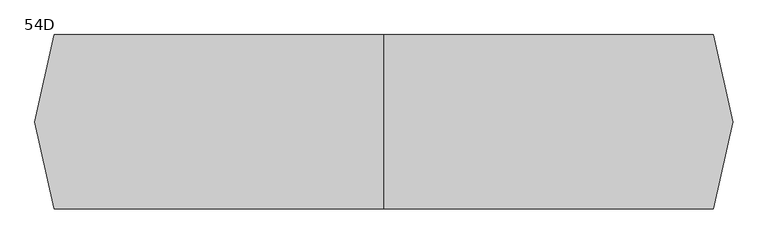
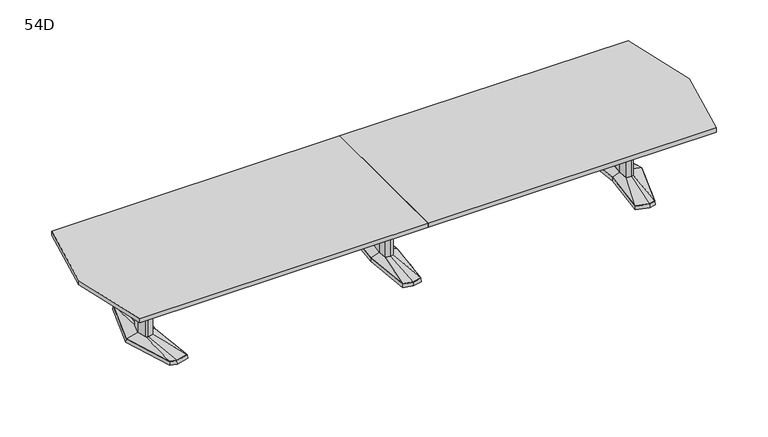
"""IFC4 building model written with IfcOpenShell, lengths in millimetres: furniture geometry, Coalesse_AM_Table_Conference_ETable2_Faceted_18ft_AluminiumBase : 54D."""

from ifc_helpers import new_model, si_unit, frame, origin, place, context, project, spatial, polyline, outline, extrude, faceted_brep, source, transform, mapped, element, save
from ifc_brep_helpers import plane_surface, spline_surface, advanced_brep


def furniture_54d_85b6f77c(model_context):
    return source(origin(), model_context, "Body", "SolidModel", [
        faceted_brep([(-81.2333791, -433.8053819, 38.1), (0.0, -455.556576, 38.1), (81.2333791, -433.8053819, 38.1), (119.0564774, 0.0, 38.1), (81.2333791, 433.8053819, 38.1), (0.0, 455.556576, 38.1), (-81.2333791, 433.8053819, 38.1), (-119.0564774, 0.0, 38.1), (-82.7182795, -435.0512063, 3.175), (-120.65, 0.0, 3.175), (-82.7182795, 435.0512063, 3.175), (0.0, 457.2, 3.175), (82.7182795, 435.0512063, 3.175), (120.65, 0.0, 3.175), (82.7182795, -435.0512063, 3.175), (0.0, -457.2, 3.175), (0.0, 429.2617927, 3.175), (-77.9676806, 408.3850278, 3.175), (-74.7019821, 382.9646737, 3.175), (0.0, 402.9670094, 3.175), (74.7019821, 382.9646737, 3.175), (77.9676806, 408.3850278, 3.175), (0.0, -429.2617927, 3.175), (77.9676806, -408.3850278, 3.175), (74.7019821, -382.9646737, 3.175), (0.0, -402.9670094, 3.175), (-74.7019821, -382.9646737, 3.175), (-77.9676806, -408.3850278, 3.175), (-71.8574262, 114.6326257, 3.175), (-82.5426076, 0.0, 3.175), (-71.8574262, -114.6326257, 3.175), (0.0, -133.8761372, 3.175), (71.8574262, -114.6326257, 3.175), (82.5426076, 0.0, 3.175), (71.8574262, 114.6326257, 3.175), (0.0, 133.8761372, 3.175), (0.0, 429.2617927, 0.0), (77.9676806, 408.3850278, 0.0), (74.7019821, 382.9646737, 0.0), (0.0, 402.9670094, 0.0), (-74.7019821, 382.9646737, 0.0), (-77.9676806, 408.3850278, 0.0), (0.0, -429.2617927, 0.0), (-77.9676806, -408.3850278, 0.0), (-74.7019821, -382.9646737, 0.0), (0.0, -402.9670094, 0.0), (74.7019821, -382.9646737, 0.0), (77.9676806, -408.3850278, 0.0), (-71.8574262, 114.6326257, 0.0), (0.0, 133.8761372, 0.0), (71.8574262, 114.6326257, 0.0), (82.5426076, 0.0, 0.0), (71.8574262, -114.6326257, 0.0), (0.0, -133.8761372, 0.0), (-71.8574262, -114.6326257, 0.0), (-82.5426076, 0.0, 0.0)], [[[0, 1, 2, 3, 4, 5, 6, 7]], [[8, 9, 10, 11, 12, 13, 14, 15], [16, 17, 18, 19, 20, 21], [22, 23, 24, 25, 26, 27], [28, 29, 30, 31, 32, 33, 34, 35]], [[1, 0, 8, 15]], [[2, 1, 15, 14]], [[3, 2, 14, 13]], [[4, 3, 13, 12]], [[5, 4, 12, 11]], [[6, 5, 11, 10]], [[7, 6, 10, 9]], [[0, 7, 9, 8]], [[36, 37, 38, 39, 40, 41]], [[42, 43, 44, 45, 46, 47]], [[48, 49, 50, 51, 52, 53, 54, 55]], [[36, 41, 17, 16]], [[41, 40, 18, 17]], [[40, 39, 19, 18]], [[39, 38, 20, 19]], [[38, 37, 21, 20]], [[37, 36, 16, 21]], [[42, 47, 23, 22]], [[47, 46, 24, 23]], [[46, 45, 25, 24]], [[45, 44, 26, 25]], [[44, 43, 27, 26]], [[43, 42, 22, 27]], [[48, 55, 29, 28]], [[55, 54, 30, 29]], [[54, 53, 31, 30]], [[53, 52, 32, 31]], [[52, 51, 33, 32]], [[51, 50, 34, 33]], [[50, 49, 35, 34]], [[49, 48, 28, 35]]]),
        faceted_brep([(-36.3832834, 84.6900825, 698.5), (-44.2774487, 0.0, 698.5), (-36.3832834, -84.6900825, 698.5), (0.0, -94.4335728, 698.5), (36.3832834, -84.6900825, 698.5), (44.2774487, 0.0, 698.5), (36.3832834, 84.6900825, 698.5), (0.0, 94.4335728, 698.5), (-36.3832834, 84.6900825, 63.5), (0.0, 94.4335728, 63.5), (36.3832834, 84.6900825, 63.5), (44.2774487, 0.0, 63.5), (36.3832834, -84.6900825, 63.5), (0.0, -94.4335728, 63.5), (-36.3832834, -84.6900825, 63.5), (-44.2774487, 0.0, 63.5)], [[[0, 1, 2, 3, 4, 5, 6, 7]], [[8, 9, 10, 11, 12, 13, 14, 15]], [[1, 0, 8, 15]], [[2, 1, 15, 14]], [[3, 2, 14, 13]], [[4, 3, 13, 12]], [[5, 4, 12, 11]], [[6, 5, 11, 10]], [[7, 6, 10, 9]], [[0, 7, 9, 8]]]),
        advanced_brep(
        [(-36.3832834, 84.6900825, 63.5), (-44.2774487, 0.0, 63.5), (-36.3832834, -84.6900825, 63.5), (0.0, -94.4335728, 63.5), (36.3832834, -84.6900825, 63.5), (44.2774487, 0.0, 63.5), (36.3832834, 84.6900825, 63.5), (0.0, 94.4335728, 63.5), (-81.2333791, 433.8053819, 38.1), (0.0, 455.556576, 38.1), (81.2333791, 433.8053819, 38.1), (119.0564774, 0.0, 38.1), (81.2333791, -433.8053819, 38.1), (0.0, -455.556576, 38.1), (-81.2333791, -433.8053819, 38.1), (-119.0564774, 0.0, 38.1)],
        [
            (0, 1),
            (1, 2),
            (2, 3),
            (3, 4),
            (4, 5),
            (5, 6),
            (6, 7),
            (7, 0),
            (8, 9),
            (9, 10),
            (10, 11),
            (11, 12),
            (12, 13),
            (13, 14),
            (14, 15),
            (15, 8),
            (15, 1),
            (0, 8),
            (14, 2),
            (13, 3),
            (12, 4),
            (11, 5),
            (10, 6),
            (9, 7),
        ],
        [
            plane_surface(frame((0.0, 0.0, 63.5), z_axis=(0.0, 0.0, 1.0000000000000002), x_axis=(-0.9659615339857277, -0.25868574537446, 0.0))),
            plane_surface(frame((0.0, 0.0, 38.1), z_axis=(0.0, 0.0, -1.0000000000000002), x_axis=(-0.9659615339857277, -0.25868574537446, 0.0))),
            spline_surface(1, 1, [[(-81.2333791, 433.8053819, 38.1), (-36.3832834, 84.6900825, 63.5)], [(-119.0564774, 0.0, 38.1), (-44.2774487, 0.0, 63.5)]], [2, 2], [2, 2], [0.0, 1.0], [0.0, 1.0]),
            spline_surface(1, 1, [[(-119.0564774, 0.0, 38.1), (-44.2774487, 0.0, 63.5)], [(-81.2333791, -433.8053819, 38.1), (-36.3832834, -84.6900825, 63.5)]], [2, 2], [2, 2], [0.0, 1.0], [0.0, 1.0]),
            spline_surface(1, 1, [[(-81.2333791, -433.8053819, 38.1), (-36.3832834, -84.6900825, 63.5)], [(0.0, -455.556576, 38.1), (0.0, -94.4335728, 63.5)]], [2, 2], [2, 2], [0.0, 1.0], [0.0, 1.0]),
            spline_surface(1, 1, [[(0.0, -455.556576, 38.1), (0.0, -94.4335728, 63.5)], [(81.2333791, -433.8053819, 38.1), (36.3832834, -84.6900825, 63.5)]], [2, 2], [2, 2], [0.0, 1.0], [0.0, 1.0]),
            spline_surface(1, 1, [[(81.2333791, -433.8053819, 38.1), (36.3832834, -84.6900825, 63.5)], [(119.0564774, 0.0, 38.1), (44.2774487, 0.0, 63.5)]], [2, 2], [2, 2], [0.0, 1.0], [0.0, 1.0]),
            spline_surface(1, 1, [[(119.0564774, 0.0, 38.1), (44.2774487, 0.0, 63.5)], [(81.2333791, 433.8053819, 38.1), (36.3832834, 84.6900825, 63.5)]], [2, 2], [2, 2], [0.0, 1.0], [0.0, 1.0]),
            spline_surface(1, 1, [[(81.2333791, 433.8053819, 38.1), (36.3832834, 84.6900825, 63.5)], [(0.0, 455.556576, 38.1), (0.0, 94.4335728, 63.5)]], [2, 2], [2, 2], [0.0, 1.0], [0.0, 1.0]),
            spline_surface(1, 1, [[(0.0, 455.556576, 38.1), (0.0, 94.4335728, 63.5)], [(-81.2333791, 433.8053819, 38.1), (-36.3832834, 84.6900825, 63.5)]], [2, 2], [2, 2], [0.0, 1.0], [0.0, 1.0]),
        ],
        [
            (0, [[1, 2, 3, 4, 5, 6, 7, 8]]),
            (1, [[9, 10, 11, 12, 13, 14, 15, 16]]),
            (2, [[-16, 17, -1, 18]]),
            (3, [[-15, 19, -2, -17]]),
            (4, [[-14, 20, -3, -19]]),
            (5, [[-13, 21, -4, -20]]),
            (6, [[-12, 22, -5, -21]]),
            (7, [[-11, 23, -6, -22]]),
            (8, [[-10, 24, -7, -23]]),
            (9, [[-9, -18, -8, -24]]),
        ],
    ),
        faceted_brep([(2125.0306835, 455.5848221, 38.1), (2015.4531277, 426.2263816, 38.1), (2056.6163717, 0.0, 38.1), (2015.4531277, -426.2263816, 38.1), (2125.0306835, -455.5848221, 38.1), (2181.1570396, -440.5478297, 38.1), (2318.4684269, 0.0, 38.1), (2181.1570396, 440.5478297, 38.1), (2125.0306754, 457.2283104, 3.175), (2182.4124472, 441.8549756, 3.175), (2320.13125, 0.0, 3.175), (2182.4124472, -441.8549756, 3.175), (2125.0306754, -457.2283104, 3.175), (2013.74375, -427.4118891, 3.175), (2055.0214856, 0.0, 3.175), (2013.74375, 427.4118891, 3.175), (2128.620115, 428.3273875, 3.175), (2023.5718228, 402.1057253, 3.175), (2031.690518, 377.985069, 3.175), (2132.2095466, 401.0699529, 3.175), (2182.7691725, 387.524361, 3.175), (2181.9631061, 414.0360954, 3.175), (2128.620115, -428.3273875, 3.175), (2181.9631061, -414.0360954, 3.175), (2182.7691725, -387.524361, 3.175), (2132.2095466, -401.0699529, 3.175), (2031.690518, -377.985069, 3.175), (2023.5718228, -402.1057253, 3.175), (2255.2153621, 0.0, 3.175), (2222.9459611, 120.4193755, 3.175), (2174.2987222, 133.471665, 3.175), (2094.4180526, 119.4176561, 3.175), (2083.2868466, 0.0, 3.175), (2094.4180526, -119.4176561, 3.175), (2174.2987222, -133.471665, 3.175), (2222.9459611, -120.4193755, 3.175), (2128.620115, 428.3273875, 0.0), (2181.9631061, 414.0360954, 0.0), (2182.7691725, 387.524361, 0.0), (2132.2095466, 401.0699529, 0.0), (2031.690518, 377.985069, 0.0), (2023.5718228, 402.1057253, 0.0), (2128.620115, -428.3273875, 0.0), (2023.5718228, -402.1057253, 0.0), (2031.690518, -377.985069, 0.0), (2132.2095466, -401.0699529, 0.0), (2182.7691725, -387.524361, 0.0), (2181.9631061, -414.0360954, 0.0), (2255.2153621, 0.0, 0.0), (2222.9459611, -120.4193755, 0.0), (2174.2987222, -133.471665, 0.0), (2094.4180526, -119.4176561, 0.0), (2083.2868466, 0.0, 0.0), (2094.4180526, 119.4176561, 0.0), (2174.2987222, 133.471665, 0.0), (2222.9459611, 120.4193755, 0.0)], [[[0, 1, 2, 3, 4, 5, 6, 7]], [[8, 9, 10, 11, 12, 13, 14, 15], [16, 17, 18, 19, 20, 21], [22, 23, 24, 25, 26, 27], [28, 29, 30, 31, 32, 33, 34, 35]], [[7, 9, 8, 0]], [[6, 10, 9, 7]], [[5, 11, 10, 6]], [[4, 12, 11, 5]], [[3, 13, 12, 4]], [[2, 14, 13, 3]], [[1, 15, 14, 2]], [[0, 8, 15, 1]], [[36, 37, 38, 39, 40, 41]], [[42, 43, 44, 45, 46, 47]], [[48, 49, 50, 51, 52, 53, 54, 55]], [[36, 16, 21, 37]], [[37, 21, 20, 38]], [[38, 20, 19, 39]], [[39, 19, 18, 40]], [[40, 18, 17, 41]], [[41, 17, 16, 36]], [[42, 22, 27, 43]], [[43, 27, 26, 44]], [[44, 26, 25, 45]], [[45, 25, 24, 46]], [[46, 24, 23, 47]], [[47, 23, 22, 42]], [[48, 28, 35, 49]], [[49, 35, 34, 50]], [[50, 34, 33, 51]], [[51, 33, 32, 52]], [[52, 32, 31, 53]], [[53, 31, 30, 54]], [[54, 30, 29, 55]], [[55, 29, 28, 48]]]),
        faceted_brep([(2215.7710836, 0.0, 698.5), (2191.8358546, 89.3188359, 698.5), (2174.9824984, 93.8406728, 698.5), (2172.5826511, 94.4845635, 698.5), (2129.655146, 86.9320037, 698.5), (2121.5520056, 0.0, 698.5), (2129.655146, -86.9320037, 698.5), (2172.5826511, -94.4845635, 698.5), (2174.9824984, -93.8406728, 698.5), (2191.8358546, -89.3188359, 698.5), (2215.7710836, 0.0, 63.5), (2191.8358546, -89.3188359, 63.5), (2174.9824984, -93.8406728, 63.5), (2172.5826511, -94.4845635, 63.5), (2129.655146, -86.9320037, 63.5), (2121.5520056, 0.0, 63.5), (2129.655146, 86.9320037, 63.5), (2172.5826511, 94.4845635, 63.5), (2174.9824984, 93.8406728, 63.5), (2191.8358546, 89.3188359, 63.5)], [[[0, 1, 2, 3, 4, 5, 6, 7, 8, 9]], [[10, 11, 12, 13, 14, 15, 16, 17, 18, 19]], [[9, 11, 10, 0]], [[8, 12, 11, 9]], [[7, 13, 12, 8]], [[6, 14, 13, 7]], [[5, 15, 14, 6]], [[4, 16, 15, 5]], [[3, 17, 16, 4]], [[2, 18, 17, 3]], [[1, 19, 18, 2]], [[0, 10, 19, 1]]]),
        advanced_brep(
        [(2172.5826511, 94.4845635, 63.5), (2129.655146, 86.9320037, 63.5), (2121.5520056, 0.0, 63.5), (2129.655146, -86.9320037, 63.5), (2172.5826511, -94.4845635, 63.5), (2191.8358546, -89.3188359, 63.5), (2215.7710836, 0.0, 63.5), (2191.8358546, 89.3188359, 63.5), (2125.0306835, 455.5848221, 38.1), (2181.1570396, 440.5478297, 38.1), (2318.4684269, 0.0, 38.1), (2181.1570396, -440.5478297, 38.1), (2125.0306835, -455.5848221, 38.1), (2015.4531277, -426.2263816, 38.1), (2056.6163717, 0.0, 38.1), (2015.4531277, 426.2263816, 38.1)],
        [
            (0, 1),
            (1, 2),
            (2, 3),
            (3, 4),
            (4, 5),
            (5, 6),
            (6, 7),
            (7, 0),
            (8, 9),
            (9, 10),
            (10, 11),
            (11, 12),
            (12, 13),
            (13, 14),
            (14, 15),
            (15, 8),
            (8, 0),
            (7, 9),
            (6, 10),
            (5, 11),
            (4, 12),
            (3, 13),
            (2, 14),
            (1, 15),
        ],
        [
            plane_surface(frame((2165.6837991, 0.0, 63.5), z_axis=(0.0, 0.0, 1.0), x_axis=(-0.25884244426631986, -0.9659195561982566, 0.0))),
            plane_surface(frame((2127.2958125, 0.0, 38.1), z_axis=(0.0, 0.0, -1.0), x_axis=(-0.25884244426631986, -0.9659195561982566, 0.0))),
            spline_surface(1, 1, [[(2125.0306835, 455.5848221, 38.1), (2181.1570396, 440.5478297, 38.1)], [(2172.5826511, 94.4845635, 63.5), (2191.8358546, 89.3188359, 63.5)]], [2, 2], [2, 2], [0.0, 1.0], [0.0, 1.0]),
            spline_surface(1, 1, [[(2181.1570396, 440.5478297, 38.1), (2318.4684269, 0.0, 38.1)], [(2191.8358546, 89.3188359, 63.5), (2215.7710836, 0.0, 63.5)]], [2, 2], [2, 2], [0.0, 1.0], [0.0, 1.0]),
            spline_surface(1, 1, [[(2318.4684269, 0.0, 38.1), (2181.1570396, -440.5478297, 38.1)], [(2215.7710836, 0.0, 63.5), (2191.8358546, -89.3188359, 63.5)]], [2, 2], [2, 2], [0.0, 1.0], [0.0, 1.0]),
            spline_surface(1, 1, [[(2181.1570396, -440.5478297, 38.1), (2125.0306835, -455.5848221, 38.1)], [(2191.8358546, -89.3188359, 63.5), (2172.5826511, -94.4845635, 63.5)]], [2, 2], [2, 2], [0.0, 1.0], [0.0, 1.0]),
            spline_surface(1, 1, [[(2125.0306835, -455.5848221, 38.1), (2015.4531277, -426.2263816, 38.1)], [(2172.5826511, -94.4845635, 63.5), (2129.655146, -86.9320037, 63.5)]], [2, 2], [2, 2], [0.0, 1.0], [0.0, 1.0]),
            spline_surface(1, 1, [[(2015.4531277, -426.2263816, 38.1), (2056.6163717, 0.0, 38.1)], [(2129.655146, -86.9320037, 63.5), (2121.5520056, 0.0, 63.5)]], [2, 2], [2, 2], [0.0, 1.0], [0.0, 1.0]),
            spline_surface(1, 1, [[(2056.6163717, 0.0, 38.1), (2015.4531277, 426.2263816, 38.1)], [(2121.5520056, 0.0, 63.5), (2129.655146, 86.9320037, 63.5)]], [2, 2], [2, 2], [0.0, 1.0], [0.0, 1.0]),
            spline_surface(1, 1, [[(2015.4531277, 426.2263816, 38.1), (2125.0306835, 455.5848221, 38.1)], [(2129.655146, 86.9320037, 63.5), (2172.5826511, 94.4845635, 63.5)]], [2, 2], [2, 2], [0.0, 1.0], [0.0, 1.0]),
        ],
        [
            (0, [[1, 2, 3, 4, 5, 6, 7, 8]]),
            (1, [[9, 10, 11, 12, 13, 14, 15, 16]]),
            (2, [[17, -8, 18, -9]]),
            (3, [[-18, -7, 19, -10]]),
            (4, [[-19, -6, 20, -11]]),
            (5, [[-20, -5, 21, -12]]),
            (6, [[-21, -4, 22, -13]]),
            (7, [[-22, -3, 23, -14]]),
            (8, [[-23, -2, 24, -15]]),
            (9, [[-24, -1, -17, -16]]),
        ],
    ),
        faceted_brep([(-2125.0306835, 455.5848221, 38.1), (-2181.1570396, 440.5478297, 38.1), (-2318.4684269, 0.0, 38.1), (-2181.1570396, -440.5478297, 38.1), (-2125.0306835, -455.5848221, 38.1), (-2015.4531277, -426.2263816, 38.1), (-2056.6163717, 0.0, 38.1), (-2015.4531277, 426.2263816, 38.1), (-2125.0306754, 457.2283104, 3.175), (-2013.74375, 427.4118891, 3.175), (-2055.0214856, 0.0, 3.175), (-2013.74375, -427.4118891, 3.175), (-2125.0306754, -457.2283104, 3.175), (-2182.4124472, -441.8549756, 3.175), (-2320.13125, 0.0, 3.175), (-2182.4124472, 441.8549756, 3.175), (-2128.620115, 428.3273875, 3.175), (-2181.9631061, 414.0360954, 3.175), (-2182.7691725, 387.524361, 3.175), (-2132.2095466, 401.0699529, 3.175), (-2031.690518, 377.985069, 3.175), (-2023.5718228, 402.1057253, 3.175), (-2128.620115, -428.3273875, 3.175), (-2023.5718228, -402.1057253, 3.175), (-2031.690518, -377.985069, 3.175), (-2132.2095466, -401.0699529, 3.175), (-2182.7691725, -387.524361, 3.175), (-2181.9631061, -414.0360954, 3.175), (-2255.2153621, 0.0, 3.175), (-2222.9459611, -120.4193755, 3.175), (-2174.2987222, -133.471665, 3.175), (-2094.4180526, -119.4176561, 3.175), (-2083.2868466, 0.0, 3.175), (-2094.4180526, 119.4176561, 3.175), (-2174.2987222, 133.471665, 3.175), (-2222.9459611, 120.4193755, 3.175), (-2128.620115, 428.3273875, 0.0), (-2023.5718228, 402.1057253, 0.0), (-2031.690518, 377.985069, 0.0), (-2132.2095466, 401.0699529, 0.0), (-2182.7691725, 387.524361, 0.0), (-2181.9631061, 414.0360954, 0.0), (-2128.620115, -428.3273875, 0.0), (-2181.9631061, -414.0360954, 0.0), (-2182.7691725, -387.524361, 0.0), (-2132.2095466, -401.0699529, 0.0), (-2031.690518, -377.985069, 0.0), (-2023.5718228, -402.1057253, 0.0), (-2255.2153621, 0.0, 0.0), (-2222.9459611, 120.4193755, 0.0), (-2174.2987222, 133.471665, 0.0), (-2094.4180526, 119.4176561, 0.0), (-2083.2868466, 0.0, 0.0), (-2094.4180526, -119.4176561, 0.0), (-2174.2987222, -133.471665, 0.0), (-2222.9459611, -120.4193755, 0.0)], [[[0, 1, 2, 3, 4, 5, 6, 7]], [[8, 9, 10, 11, 12, 13, 14, 15], [16, 17, 18, 19, 20, 21], [22, 23, 24, 25, 26, 27], [28, 29, 30, 31, 32, 33, 34, 35]], [[1, 0, 8, 15]], [[2, 1, 15, 14]], [[3, 2, 14, 13]], [[4, 3, 13, 12]], [[5, 4, 12, 11]], [[6, 5, 11, 10]], [[7, 6, 10, 9]], [[0, 7, 9, 8]], [[36, 37, 38, 39, 40, 41]], [[42, 43, 44, 45, 46, 47]], [[48, 49, 50, 51, 52, 53, 54, 55]], [[36, 41, 17, 16]], [[41, 40, 18, 17]], [[40, 39, 19, 18]], [[39, 38, 20, 19]], [[38, 37, 21, 20]], [[37, 36, 16, 21]], [[42, 47, 23, 22]], [[47, 46, 24, 23]], [[46, 45, 25, 24]], [[45, 44, 26, 25]], [[44, 43, 27, 26]], [[43, 42, 22, 27]], [[48, 55, 29, 28]], [[55, 54, 30, 29]], [[54, 53, 31, 30]], [[53, 52, 32, 31]], [[52, 51, 33, 32]], [[51, 50, 34, 33]], [[50, 49, 35, 34]], [[49, 48, 28, 35]]]),
        faceted_brep([(-2215.7710836, 0.0, 698.5), (-2191.8358546, -89.3188359, 698.5), (-2174.9824984, -93.8406728, 698.5), (-2172.5826511, -94.4845635, 698.5), (-2129.655146, -86.9320037, 698.5), (-2121.5520056, 0.0, 698.5), (-2129.655146, 86.9320037, 698.5), (-2172.5826511, 94.4845635, 698.5), (-2174.9824984, 93.8406728, 698.5), (-2191.8358546, 89.3188359, 698.5), (-2215.7710836, 0.0, 63.5), (-2191.8358546, 89.3188359, 63.5), (-2174.9824984, 93.8406728, 63.5), (-2172.5826511, 94.4845635, 63.5), (-2129.655146, 86.9320037, 63.5), (-2121.5520056, 0.0, 63.5), (-2129.655146, -86.9320037, 63.5), (-2172.5826511, -94.4845635, 63.5), (-2174.9824984, -93.8406728, 63.5), (-2191.8358546, -89.3188359, 63.5)], [[[0, 1, 2, 3, 4, 5, 6, 7, 8, 9]], [[10, 11, 12, 13, 14, 15, 16, 17, 18, 19]], [[1, 0, 10, 19]], [[2, 1, 19, 18]], [[3, 2, 18, 17]], [[4, 3, 17, 16]], [[5, 4, 16, 15]], [[6, 5, 15, 14]], [[7, 6, 14, 13]], [[8, 7, 13, 12]], [[9, 8, 12, 11]], [[0, 9, 11, 10]]]),
        advanced_brep(
        [(-2172.5826511, 94.4845635, 63.5), (-2191.8358546, 89.3188359, 63.5), (-2215.7710836, 0.0, 63.5), (-2191.8358546, -89.3188359, 63.5), (-2172.5826511, -94.4845635, 63.5), (-2129.655146, -86.9320037, 63.5), (-2121.5520056, 0.0, 63.5), (-2129.655146, 86.9320037, 63.5), (-2125.0306835, 455.5848221, 38.1), (-2015.4531277, 426.2263816, 38.1), (-2056.6163717, 0.0, 38.1), (-2015.4531277, -426.2263816, 38.1), (-2125.0306835, -455.5848221, 38.1), (-2181.1570396, -440.5478297, 38.1), (-2318.4684269, 0.0, 38.1), (-2181.1570396, 440.5478297, 38.1)],
        [
            (0, 1),
            (1, 2),
            (2, 3),
            (3, 4),
            (4, 5),
            (5, 6),
            (6, 7),
            (7, 0),
            (8, 9),
            (9, 10),
            (10, 11),
            (11, 12),
            (12, 13),
            (13, 14),
            (14, 15),
            (15, 8),
            (15, 1),
            (0, 8),
            (14, 2),
            (13, 3),
            (12, 4),
            (11, 5),
            (10, 6),
            (9, 7),
        ],
        [
            plane_surface(frame((-2165.6837991, 0.0, 63.5), z_axis=(0.0, 0.0, 1.0), x_axis=(0.25884244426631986, -0.9659195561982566, 0.0))),
            plane_surface(frame((-2127.2958125, 0.0, 38.1), z_axis=(0.0, 0.0, -1.0), x_axis=(0.25884244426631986, -0.9659195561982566, 0.0))),
            spline_surface(1, 1, [[(-2125.0306835, 455.5848221, 38.1), (-2172.5826511, 94.4845635, 63.5)], [(-2181.1570396, 440.5478297, 38.1), (-2191.8358546, 89.3188359, 63.5)]], [2, 2], [2, 2], [0.0, 1.0], [0.0, 1.0]),
            spline_surface(1, 1, [[(-2181.1570396, 440.5478297, 38.1), (-2191.8358546, 89.3188359, 63.5)], [(-2318.4684269, 0.0, 38.1), (-2215.7710836, 0.0, 63.5)]], [2, 2], [2, 2], [0.0, 1.0], [0.0, 1.0]),
            spline_surface(1, 1, [[(-2318.4684269, 0.0, 38.1), (-2215.7710836, 0.0, 63.5)], [(-2181.1570396, -440.5478297, 38.1), (-2191.8358546, -89.3188359, 63.5)]], [2, 2], [2, 2], [0.0, 1.0], [0.0, 1.0]),
            spline_surface(1, 1, [[(-2181.1570396, -440.5478297, 38.1), (-2191.8358546, -89.3188359, 63.5)], [(-2125.0306835, -455.5848221, 38.1), (-2172.5826511, -94.4845635, 63.5)]], [2, 2], [2, 2], [0.0, 1.0], [0.0, 1.0]),
            spline_surface(1, 1, [[(-2125.0306835, -455.5848221, 38.1), (-2172.5826511, -94.4845635, 63.5)], [(-2015.4531277, -426.2263816, 38.1), (-2129.655146, -86.9320037, 63.5)]], [2, 2], [2, 2], [0.0, 1.0], [0.0, 1.0]),
            spline_surface(1, 1, [[(-2015.4531277, -426.2263816, 38.1), (-2129.655146, -86.9320037, 63.5)], [(-2056.6163717, 0.0, 38.1), (-2121.5520056, 0.0, 63.5)]], [2, 2], [2, 2], [0.0, 1.0], [0.0, 1.0]),
            spline_surface(1, 1, [[(-2056.6163717, 0.0, 38.1), (-2121.5520056, 0.0, 63.5)], [(-2015.4531277, 426.2263816, 38.1), (-2129.655146, 86.9320037, 63.5)]], [2, 2], [2, 2], [0.0, 1.0], [0.0, 1.0]),
            spline_surface(1, 1, [[(-2015.4531277, 426.2263816, 38.1), (-2129.655146, 86.9320037, 63.5)], [(-2125.0306835, 455.5848221, 38.1), (-2172.5826511, 94.4845635, 63.5)]], [2, 2], [2, 2], [0.0, 1.0], [0.0, 1.0]),
        ],
        [
            (0, [[1, 2, 3, 4, 5, 6, 7, 8]]),
            (1, [[9, 10, 11, 12, 13, 14, 15, 16]]),
            (2, [[-16, 17, -1, 18]]),
            (3, [[-15, 19, -2, -17]]),
            (4, [[-14, 20, -3, -19]]),
            (5, [[-13, 21, -4, -20]]),
            (6, [[-12, 22, -5, -21]]),
            (7, [[-11, 23, -6, -22]]),
            (8, [[-10, 24, -7, -23]]),
            (9, [[-9, -18, -8, -24]]),
        ],
    ),
        extrude(outline(polyline([(96.8375, 698.5), (103.1875, 698.5), (103.1875, 476.25), (-103.1875, 476.25), (-103.1875, 698.5), (-96.8375, 698.5), (-96.8375, 482.6), (96.8375, 482.6), (96.8375, 698.5)])), frame((44.2774487, 0.0, 0.0), z_axis=(1.0, 0.0, 0.0), x_axis=(0.0, 1.0, 0.0)), (0.0, 0.0, 1.0), 2077.4163013),
        extrude(outline(polyline([(2591.1609518, 685.8), (2743.2, 0.0), (2591.1609518, -685.8), (0.0, -685.8), (0.0, 685.8), (2591.1609518, 685.8)])), frame((0.0, 0.0, 698.5), z_axis=(0.0, 0.0, 1.0), x_axis=(1.0, 0.0, 0.0)), (0.0, 0.0, 1.0), 38.1),
        extrude(outline(polyline([(0.0, -685.8), (-2591.1609518, -685.8), (-2743.2, 0.0), (-2591.1609518, 685.8), (0.0, 685.8), (0.0, -685.8)])), frame((0.0, 0.0, 698.5), z_axis=(0.0, 0.0, 1.0), x_axis=(1.0, 0.0, 0.0)), (0.0, 0.0, 1.0), 38.1),
        extrude(outline(polyline([(96.8375, 698.5), (103.1875, 698.5), (103.1875, 476.25), (-103.1875, 476.25), (-103.1875, 698.5), (-96.8375, 698.5), (-96.8375, 482.6), (96.8375, 482.6), (96.8375, 698.5)])), frame((-2121.69375, 0.0, 0.0), z_axis=(1.0, 0.0, 0.0), x_axis=(0.0, 1.0, 0.0)), (0.0, 0.0, 1.0), 2077.4163013),
    ])


if __name__ == "__main__":
    model = new_model("IFC4")
    model_context = context("Model", 3, world=origin())
    ifc_project = project(units=[si_unit("LENGTHUNIT", "METRE", prefix="MILLI")], contexts=[model_context])
    site = spatial("IfcSite", under=ifc_project)
    building = spatial("IfcBuilding", under=site)
    placement = place(None, origin())
    furniture_54d_shape = furniture_54d_85b6f77c(model_context)
    element("IfcFurniture", 1, ObjectType="Coalesse_AM_Table_Conference_ETable2_Faceted_18ft_AluminiumBase : 54D", at=placement, inside=building, context=model_context, shape_type="MappedRepresentation", body=[
        mapped(furniture_54d_shape, transform((0.0, 0.0, 0.0), x_axis=(1.0, 0.0, 0.0), y_axis=(0.0, 1.0, 0.0), z_axis=(0.0, 0.0, 1.0))),
    ])
    save(model, "model.ifc")
